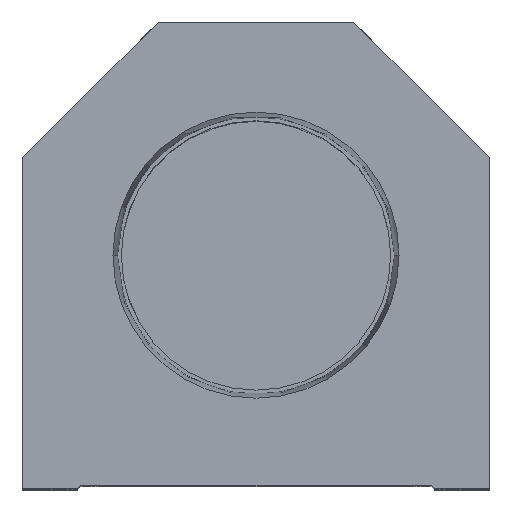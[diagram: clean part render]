
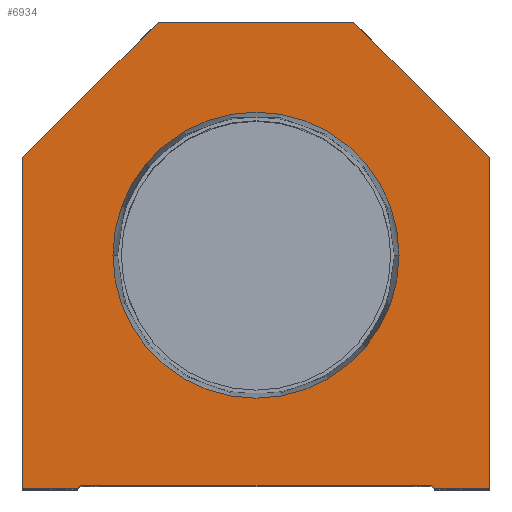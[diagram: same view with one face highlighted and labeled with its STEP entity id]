
A CAD part, top view. The second image highlights one B-rep face of the part: STEP entity #6934.
In plain terms, the highlighted planar face has unit normal (0, 0, 1).
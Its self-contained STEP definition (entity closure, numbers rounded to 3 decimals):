
#21 = VECTOR ( 'NONE', #14732, 1000. ) ;
#34 = CARTESIAN_POINT ( 'NONE',  ( -38.1, 0., 0. ) ) ;
#54 = DIRECTION ( 'NONE',  ( -0.707, -0.707, 0. ) ) ;
#243 = LINE ( 'NONE', #18320, #7652 ) ;
#276 = ORIENTED_EDGE ( 'NONE', *, *, #1604, .T. ) ;
#728 = VECTOR ( 'NONE', #9376, 1000. ) ;
#1090 = VECTOR ( 'NONE', #8842, 1000. ) ;
#1323 = AXIS2_PLACEMENT_3D ( 'NONE', #6809, #17356, #8108 ) ;
#1427 = CARTESIAN_POINT ( 'NONE',  ( 16., 76.2, 0. ) ) ;
#1604 = EDGE_CURVE ( 'NONE', #16784, #4879, #5595, .T. ) ;
#1746 = EDGE_CURVE ( 'NONE', #2406, #17151, #4582, .T. ) ;
#1956 = CARTESIAN_POINT ( 'NONE',  ( 0., 38.1, 0. ) ) ;
#2057 = DIRECTION ( 'NONE',  ( 1., 0., 0. ) ) ;
#2169 = ORIENTED_EDGE ( 'NONE', *, *, #15906, .T. ) ;
#2365 = EDGE_CURVE ( 'NONE', #13102, #4624, #9266, .T. ) ;
#2400 = CARTESIAN_POINT ( 'NONE',  ( 28.6, 0., 0. ) ) ;
#2406 = VERTEX_POINT ( 'NONE', #12445 ) ;
#2841 = CARTESIAN_POINT ( 'NONE',  ( 0., 0., 0. ) ) ;
#2860 = VECTOR ( 'NONE', #19755, 1000. ) ;
#3078 = VERTEX_POINT ( 'NONE', #34 ) ;
#3079 = ORIENTED_EDGE ( 'NONE', *, *, #10365, .T. ) ;
#3514 = EDGE_CURVE ( 'NONE', #17151, #3078, #16568, .T. ) ;
#3575 = LINE ( 'NONE', #9627, #4212 ) ;
#4018 = CARTESIAN_POINT ( 'NONE',  ( 14.55, 14.55, 0. ) ) ;
#4212 = VECTOR ( 'NONE', #2057, 1000. ) ;
#4321 = DIRECTION ( 'NONE',  ( 1., 0., 0. ) ) ;
#4386 = EDGE_LOOP ( 'NONE', ( #5550, #10760 ) ) ;
#4574 = DIRECTION ( 'NONE',  ( 1., 0., 0. ) ) ;
#4582 = LINE ( 'NONE', #12020, #12704 ) ;
#4624 = VERTEX_POINT ( 'NONE', #5369 ) ;
#4879 = VERTEX_POINT ( 'NONE', #13404 ) ;
#5137 = CARTESIAN_POINT ( 'NONE',  ( 16., 76.2, 0. ) ) ;
#5369 = CARTESIAN_POINT ( 'NONE',  ( -28.6, 0.5, 0. ) ) ;
#5461 = CARTESIAN_POINT ( 'NONE',  ( 38.1, 54.1, 0. ) ) ;
#5550 = ORIENTED_EDGE ( 'NONE', *, *, #14661, .F. ) ;
#5595 = LINE ( 'NONE', #2400, #16264 ) ;
#5622 = CARTESIAN_POINT ( 'NONE',  ( -23.374, 38.1, 0. ) ) ;
#5734 = VECTOR ( 'NONE', #7072, 1000. ) ;
#6243 = ORIENTED_EDGE ( 'NONE', *, *, #7153, .T. ) ;
#6385 = CARTESIAN_POINT ( 'NONE',  ( 29.1, 0., 0. ) ) ;
#6573 = EDGE_CURVE ( 'NONE', #4624, #10463, #3575, .T. ) ;
#6594 = EDGE_CURVE ( 'NONE', #15248, #15481, #16127, .T. ) ;
#6715 = DIRECTION ( 'NONE',  ( 0., 0., 1. ) ) ;
#6809 = CARTESIAN_POINT ( 'NONE',  ( 0., 38.1, 0. ) ) ;
#6934 = ADVANCED_FACE ( 'NONE', ( #18152, #15301 ), #11955, .T. ) ;
#7072 = DIRECTION ( 'NONE',  ( 0.707, -0.707, 0. ) ) ;
#7153 = EDGE_CURVE ( 'NONE', #3078, #13102, #243, .T. ) ;
#7359 = VERTEX_POINT ( 'NONE', #15230 ) ;
#7652 = VECTOR ( 'NONE', #4574, 1000. ) ;
#7697 = LINE ( 'NONE', #1427, #728 ) ;
#8108 = DIRECTION ( 'NONE',  ( 1., 0., 0. ) ) ;
#8367 = LINE ( 'NONE', #4018, #5734 ) ;
#8842 = DIRECTION ( 'NONE',  ( 0., -1., 0. ) ) ;
#8978 = AXIS2_PLACEMENT_3D ( 'NONE', #2841, #18358, #4321 ) ;
#9071 = CARTESIAN_POINT ( 'NONE',  ( -14.55, 14.55, 0. ) ) ;
#9198 = ORIENTED_EDGE ( 'NONE', *, *, #3514, .T. ) ;
#9266 = LINE ( 'NONE', #9071, #2860 ) ;
#9376 = DIRECTION ( 'NONE',  ( -1., 0., 0. ) ) ;
#9627 = CARTESIAN_POINT ( 'NONE',  ( -28.6, 0.5, 0. ) ) ;
#9706 = DIRECTION ( 'NONE',  ( 1., 0., 0. ) ) ;
#10360 = VERTEX_POINT ( 'NONE', #5622 ) ;
#10365 = EDGE_CURVE ( 'NONE', #10463, #16784, #8367, .T. ) ;
#10463 = VERTEX_POINT ( 'NONE', #17179 ) ;
#10693 = CARTESIAN_POINT ( 'NONE',  ( -38.1, 54.1, 0. ) ) ;
#10760 = ORIENTED_EDGE ( 'NONE', *, *, #13163, .F. ) ;
#11752 = DIRECTION ( 'NONE',  ( 0., 1., 0. ) ) ;
#11955 = PLANE ( 'NONE',  #8978 ) ;
#12020 = CARTESIAN_POINT ( 'NONE',  ( -38.1, 54.1, 0. ) ) ;
#12445 = CARTESIAN_POINT ( 'NONE',  ( -16., 76.2, 0. ) ) ;
#12704 = VECTOR ( 'NONE', #54, 1000. ) ;
#13102 = VERTEX_POINT ( 'NONE', #15431 ) ;
#13163 = EDGE_CURVE ( 'NONE', #10360, #7359, #18209, .T. ) ;
#13168 = LINE ( 'NONE', #17719, #13853 ) ;
#13404 = CARTESIAN_POINT ( 'NONE',  ( 38.1, 0., 0. ) ) ;
#13574 = ORIENTED_EDGE ( 'NONE', *, *, #6573, .T. ) ;
#13853 = VECTOR ( 'NONE', #11752, 1000. ) ;
#14661 = EDGE_CURVE ( 'NONE', #7359, #10360, #16635, .T. ) ;
#14722 = EDGE_LOOP ( 'NONE', ( #6243, #15609, #13574, #3079, #276, #2169, #17875, #15115, #16588, #9198 ) ) ;
#14732 = DIRECTION ( 'NONE',  ( -0.707, 0.707, 0. ) ) ;
#14768 = CARTESIAN_POINT ( 'NONE',  ( -38.1, 0., 0. ) ) ;
#14961 = AXIS2_PLACEMENT_3D ( 'NONE', #1956, #6715, #9706 ) ;
#15115 = ORIENTED_EDGE ( 'NONE', *, *, #19412, .T. ) ;
#15230 = CARTESIAN_POINT ( 'NONE',  ( 23.374, 38.1, 0. ) ) ;
#15248 = VERTEX_POINT ( 'NONE', #19693 ) ;
#15301 = FACE_OUTER_BOUND ( 'NONE', #14722, .T. ) ;
#15431 = CARTESIAN_POINT ( 'NONE',  ( -29.1, 0., 0. ) ) ;
#15481 = VERTEX_POINT ( 'NONE', #5137 ) ;
#15609 = ORIENTED_EDGE ( 'NONE', *, *, #2365, .T. ) ;
#15906 = EDGE_CURVE ( 'NONE', #4879, #15248, #13168, .T. ) ;
#16127 = LINE ( 'NONE', #5461, #21 ) ;
#16264 = VECTOR ( 'NONE', #16275, 1000. ) ;
#16275 = DIRECTION ( 'NONE',  ( 1., 0., 0. ) ) ;
#16568 = LINE ( 'NONE', #14768, #1090 ) ;
#16588 = ORIENTED_EDGE ( 'NONE', *, *, #1746, .T. ) ;
#16635 = CIRCLE ( 'NONE', #1323, 23.374 ) ;
#16784 = VERTEX_POINT ( 'NONE', #6385 ) ;
#17151 = VERTEX_POINT ( 'NONE', #10693 ) ;
#17179 = CARTESIAN_POINT ( 'NONE',  ( 28.6, 0.5, 0. ) ) ;
#17356 = DIRECTION ( 'NONE',  ( 0., 0., 1. ) ) ;
#17719 = CARTESIAN_POINT ( 'NONE',  ( 38.1, 0., 0. ) ) ;
#17875 = ORIENTED_EDGE ( 'NONE', *, *, #6594, .T. ) ;
#18152 = FACE_BOUND ( 'NONE', #4386, .T. ) ;
#18209 = CIRCLE ( 'NONE', #14961, 23.374 ) ;
#18320 = CARTESIAN_POINT ( 'NONE',  ( -28.6, 0., 0. ) ) ;
#18358 = DIRECTION ( 'NONE',  ( 0., 0., 1. ) ) ;
#19412 = EDGE_CURVE ( 'NONE', #15481, #2406, #7697, .T. ) ;
#19693 = CARTESIAN_POINT ( 'NONE',  ( 38.1, 54.1, 0. ) ) ;
#19755 = DIRECTION ( 'NONE',  ( 0.707, 0.707, 0. ) ) ;
